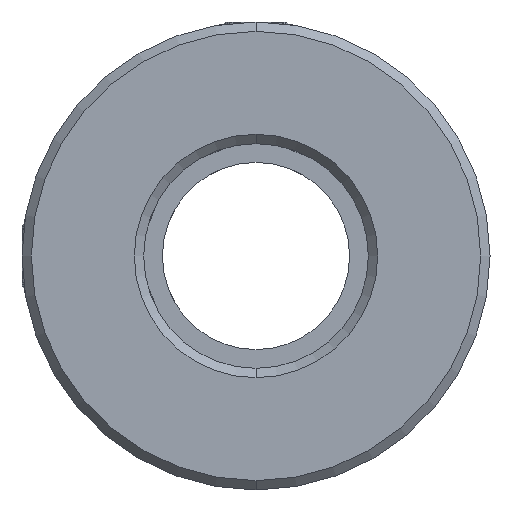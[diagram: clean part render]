
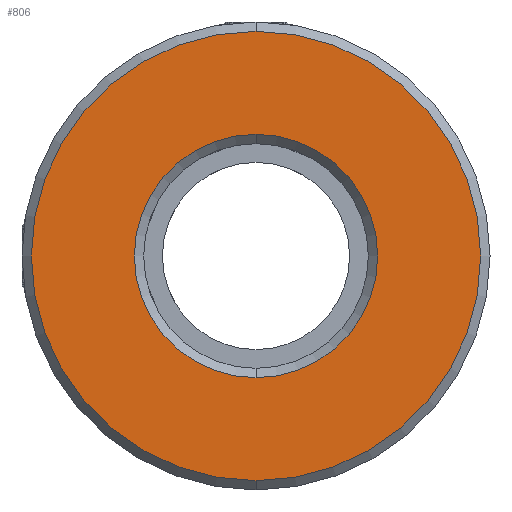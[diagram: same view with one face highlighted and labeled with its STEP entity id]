
A CAD part, front view. The second image highlights one B-rep face of the part: STEP entity #806.
In plain terms, the highlighted planar face has unit normal (0, -1, 0).
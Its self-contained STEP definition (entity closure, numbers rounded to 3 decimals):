
#23 = ORIENTED_EDGE ( 'NONE', *, *, #939, .T. ) ;
#26 = ORIENTED_EDGE ( 'NONE', *, *, #363, .T. ) ;
#322 = FACE_BOUND ( 'NONE', #3162, .T. ) ;
#337 = DIRECTION ( 'NONE',  ( 0., 0., 1. ) ) ;
#363 = EDGE_CURVE ( 'NONE', #2696, #2041, #1268, .T. ) ;
#500 = DIRECTION ( 'NONE',  ( 0., 0., 1. ) ) ;
#599 = EDGE_CURVE ( 'NONE', #2041, #2696, #2123, .T. ) ;
#731 = VERTEX_POINT ( 'NONE', #1956 ) ;
#753 = CIRCLE ( 'NONE', #3569, 6.5 ) ;
#797 = CARTESIAN_POINT ( 'NONE',  ( -10.188, -0.277, 6.546 ) ) ;
#806 = ADVANCED_FACE ( 'NONE', ( #1197, #322 ), #2021, .F. ) ;
#849 = DIRECTION ( 'NONE',  ( 0., 1., 0. ) ) ;
#887 = DIRECTION ( 'NONE',  ( 0., -1., 0. ) ) ;
#939 = EDGE_CURVE ( 'NONE', #970, #731, #1082, .T. ) ;
#970 = VERTEX_POINT ( 'NONE', #797 ) ;
#1082 = CIRCLE ( 'NONE', #2824, 6.5 ) ;
#1193 = CARTESIAN_POINT ( 'NONE',  ( -10.188, -0.277, -11.954 ) ) ;
#1197 = FACE_OUTER_BOUND ( 'NONE', #3433, .T. ) ;
#1268 = CIRCLE ( 'NONE', #3246, 12. ) ;
#1304 = CARTESIAN_POINT ( 'NONE',  ( -10.188, -0.277, 0.046 ) ) ;
#1602 = DIRECTION ( 'NONE',  ( 0., 1., 0. ) ) ;
#1716 = CARTESIAN_POINT ( 'NONE',  ( -10.188, -0.277, 0.046 ) ) ;
#1797 = CARTESIAN_POINT ( 'NONE',  ( -10.188, -0.277, 0.046 ) ) ;
#1956 = CARTESIAN_POINT ( 'NONE',  ( -10.188, -0.277, -6.454 ) ) ;
#2021 = PLANE ( 'NONE',  #2240 ) ;
#2041 = VERTEX_POINT ( 'NONE', #3255 ) ;
#2123 = CIRCLE ( 'NONE', #2995, 12. ) ;
#2159 = CARTESIAN_POINT ( 'NONE',  ( -10.188, -0.277, 0.046 ) ) ;
#2240 = AXIS2_PLACEMENT_3D ( 'NONE', #1716, #2884, #337 ) ;
#2575 = DIRECTION ( 'NONE',  ( 0., 0., 1. ) ) ;
#2696 = VERTEX_POINT ( 'NONE', #1193 ) ;
#2824 = AXIS2_PLACEMENT_3D ( 'NONE', #3653, #849, #2575 ) ;
#2861 = DIRECTION ( 'NONE',  ( 0., 0., 1. ) ) ;
#2884 = DIRECTION ( 'NONE',  ( 0., 1., 0. ) ) ;
#2995 = AXIS2_PLACEMENT_3D ( 'NONE', #2159, #3286, #2996 ) ;
#2996 = DIRECTION ( 'NONE',  ( 0., 0., 1. ) ) ;
#3135 = ORIENTED_EDGE ( 'NONE', *, *, #3703, .T. ) ;
#3162 = EDGE_LOOP ( 'NONE', ( #3135, #23 ) ) ;
#3246 = AXIS2_PLACEMENT_3D ( 'NONE', #1797, #887, #2861 ) ;
#3255 = CARTESIAN_POINT ( 'NONE',  ( -10.188, -0.277, 12.046 ) ) ;
#3281 = ORIENTED_EDGE ( 'NONE', *, *, #599, .T. ) ;
#3286 = DIRECTION ( 'NONE',  ( 0., -1., 0. ) ) ;
#3433 = EDGE_LOOP ( 'NONE', ( #3281, #26 ) ) ;
#3569 = AXIS2_PLACEMENT_3D ( 'NONE', #1304, #1602, #500 ) ;
#3653 = CARTESIAN_POINT ( 'NONE',  ( -10.188, -0.277, 0.046 ) ) ;
#3703 = EDGE_CURVE ( 'NONE', #731, #970, #753, .T. ) ;
